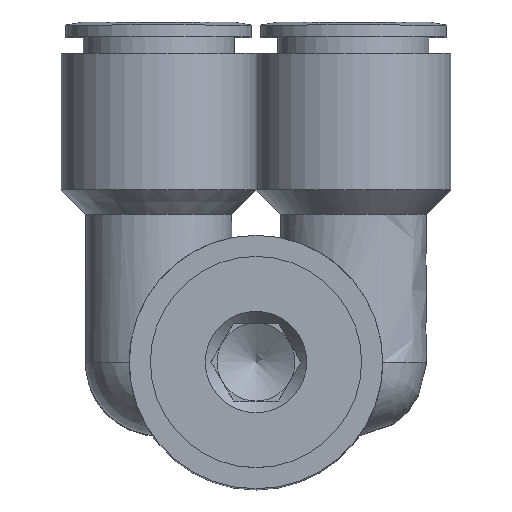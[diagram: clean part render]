
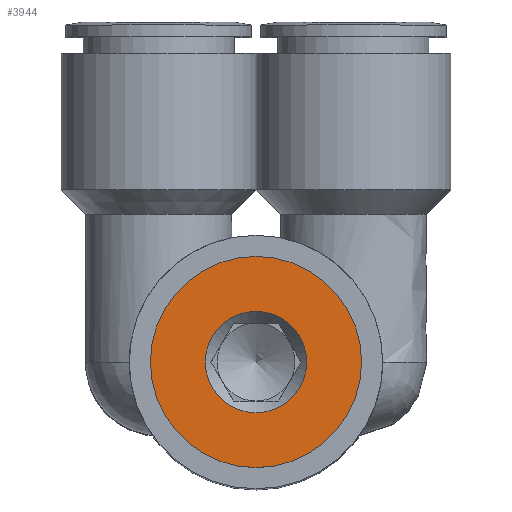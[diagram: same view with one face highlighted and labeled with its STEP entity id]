
A CAD part, top view. The second image highlights one B-rep face of the part: STEP entity #3944.
In plain terms, the highlighted planar face has unit normal (0, 0, 1).
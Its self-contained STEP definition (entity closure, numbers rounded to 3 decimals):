
#614=CARTESIAN_POINT('',(5.2,0.0,63.));
#615=VERTEX_POINT('',#614);
#616=CARTESIAN_POINT('',(0.0,0.0,63.));
#617=DIRECTION('',(0.0,0.0,-1.0));
#618=DIRECTION('',(1.0,0.0,0.0));
#619=AXIS2_PLACEMENT_3D('',#616,#617,#618);
#620=CIRCLE('',#619,5.2);
#621=EDGE_CURVE('',#615,#615,#620,.T.);
#3918=CARTESIAN_POINT('',(0.0,-10.833,63.));
#3919=VERTEX_POINT('',#3918);
#3920=CARTESIAN_POINT('',(0.0,0.0,63.));
#3921=DIRECTION('',(0.0,0.0,1.0));
#3922=DIRECTION('',(0.0,-1.0,0.0));
#3923=AXIS2_PLACEMENT_3D('',#3920,#3921,#3922);
#3924=CIRCLE('',#3923,10.833);
#3925=EDGE_CURVE('',#3919,#3919,#3924,.T.);
#3933=CARTESIAN_POINT('',(0.0,-5.417,63.));
#3934=DIRECTION('',(0.0,0.0,1.0));
#3935=DIRECTION('',(1.0,0.0,0.0));
#3936=AXIS2_PLACEMENT_3D('',#3933,#3934,#3935);
#3937=PLANE('',#3936);
#3938=ORIENTED_EDGE('',*,*,#3925,.T.);
#3939=EDGE_LOOP('',(#3938));
#3940=FACE_OUTER_BOUND('',#3939,.T.);
#3941=ORIENTED_EDGE('',*,*,#621,.T.);
#3942=EDGE_LOOP('',(#3941));
#3943=FACE_BOUND('',#3942,.T.);
#3944=ADVANCED_FACE('',(#3940,#3943),#3937,.T.);
